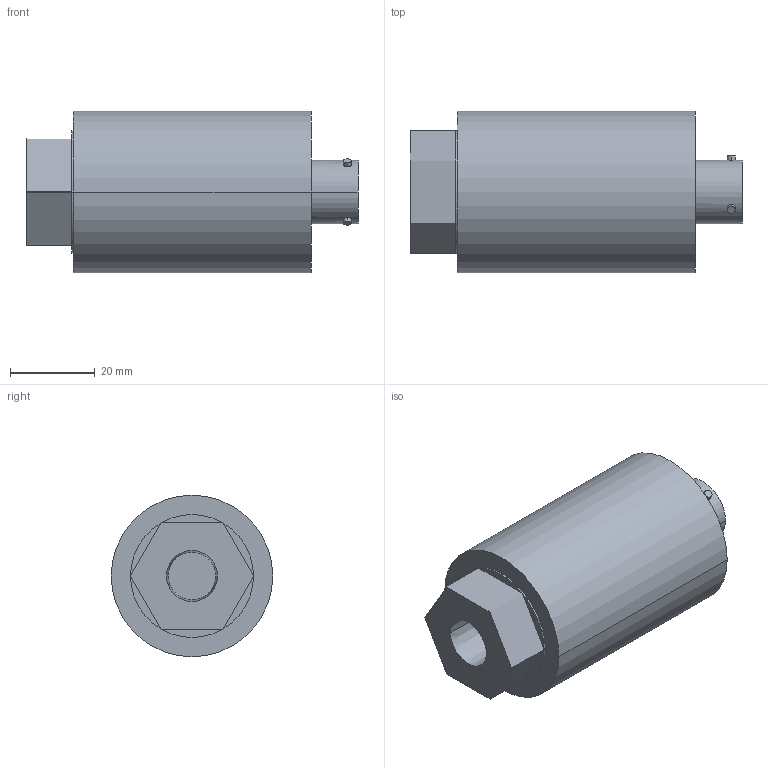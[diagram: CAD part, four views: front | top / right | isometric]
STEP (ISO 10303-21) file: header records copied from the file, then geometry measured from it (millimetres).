
FILE_DESCRIPTION(('STEP AP214'),'1');
FILE_NAME('burster_8267-6001_5c6gr7ae5746ry0tlzb3svwh4.stp','2017-04-19T20:07:52',('TraceParts'),('TraceParts S.A.'),'Spatial InterOp 3D',' ',' ');
FILE_SCHEMA(('automotive_design'));
Length unit declared in the file: millimetre
Products named in the file (1): burster_8267-6001_5c6gr7ae5746ry0tlzb3svwh4
Bounding box: 78.3 x 38.1 x 38.1 mm (x, y, z)
Volume: 69393 mm3; surface area: 11543.9 mm2
Topology: 1 solids, 1 shells, 57 faces, 127 edges, 84 vertices
Faces by surface type: cylinder 28, plane 27, cone 2
Entity records: 2209 total; most frequent: CARTESIAN_POINT 405, DIRECTION 299, ORIENTED_EDGE 254, EDGE_CURVE 127, AXIS2_PLACEMENT_3D 122, VERTEX_POINT 84, EDGE_LOOP 69, CIRCLE 64
